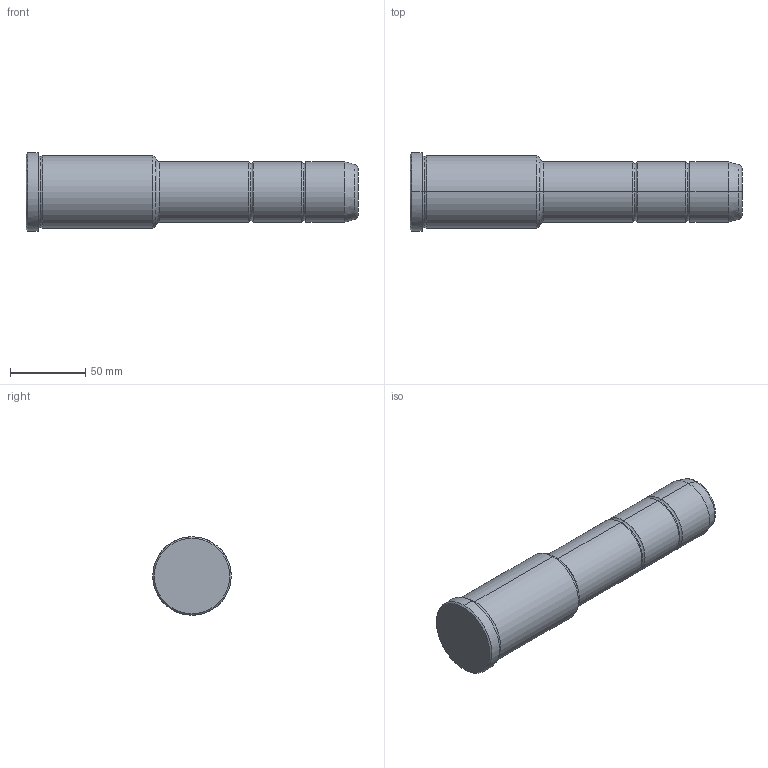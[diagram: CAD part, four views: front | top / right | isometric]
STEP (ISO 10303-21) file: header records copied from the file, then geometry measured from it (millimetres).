
FILE_DESCRIPTION(('CATIA V5 STEP Exchange'),'2;1');
FILE_NAME('C:\Users\Utente\Desktop\IO LAVORO\3D X SITO CF\X SITO\PLASTICA\351\351-40X86X220.stp','2021-10-07T14:15:32+00:00',('none'),('none'),'CATIA Version 5 Release 20 GA (IN-10)','CATIA V5 STEP AP203','none');
FILE_SCHEMA(('CONFIG_CONTROL_DESIGN'));
Length unit declared in the file: millimetre
Products named in the file (1): 351-40X86X220
Bounding box: 220 x 52 x 52 mm (x, y, z)
Volume: 324340.7 mm3; surface area: 33603.3 mm2
Topology: 1 solids, 1 shells, 36 faces, 102 edges, 70 vertices
Faces by surface type: torus 16, cylinder 10, cone 6, plane 4
Entity records: 1292 total; most frequent: CARTESIAN_POINT 321, ORIENTED_EDGE 204, DIRECTION 166, AXIS2_PLACEMENT_3D 115, EDGE_CURVE 102, CIRCLE 78, VERTEX_POINT 70, EDGE_LOOP 38
